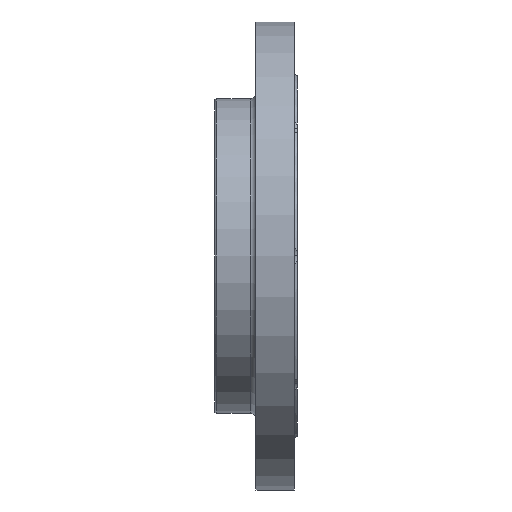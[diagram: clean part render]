
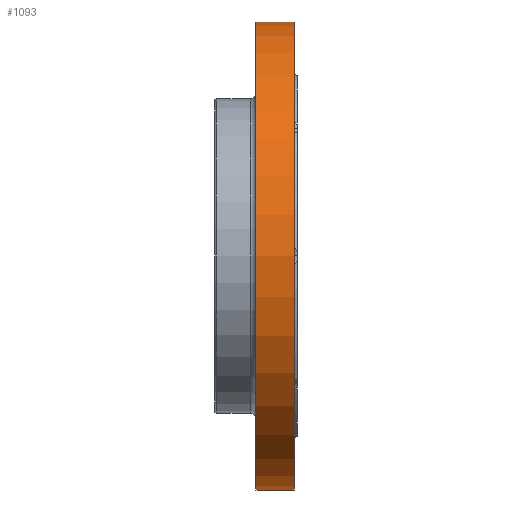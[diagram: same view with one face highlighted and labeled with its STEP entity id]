
A CAD part, left-side view. The second image highlights one B-rep face of the part: STEP entity #1093.
In plain terms, the highlighted cylindrical face has radius 125 mm (diameter 250 mm), a partial arc.
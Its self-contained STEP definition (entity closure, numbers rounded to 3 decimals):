
#56 = DIRECTION ( 'NONE',  ( 0., 0., 1. ) ) ;
#105 = VERTEX_POINT ( 'NONE', #1216 ) ;
#198 = CARTESIAN_POINT ( 'NONE',  ( 0., 1.5, 0. ) ) ;
#238 = ORIENTED_EDGE ( 'NONE', *, *, #1184, .F. ) ;
#242 = VERTEX_POINT ( 'NONE', #1015 ) ;
#247 = VERTEX_POINT ( 'NONE', #1007 ) ;
#281 = CARTESIAN_POINT ( 'NONE',  ( 0., 84.699, -125. ) ) ;
#297 = CARTESIAN_POINT ( 'NONE',  ( 0., 84.699, 0. ) ) ;
#335 = EDGE_CURVE ( 'NONE', #247, #242, #1053, .T. ) ;
#366 = DIRECTION ( 'NONE',  ( 0., 0., 1. ) ) ;
#454 = DIRECTION ( 'NONE',  ( 0., 1., 0. ) ) ;
#496 = AXIS2_PLACEMENT_3D ( 'NONE', #198, #454, #56 ) ;
#505 = EDGE_CURVE ( 'NONE', #1513, #105, #1205, .T. ) ;
#540 = CYLINDRICAL_SURFACE ( 'NONE', #1105, 125. ) ;
#603 = FACE_OUTER_BOUND ( 'NONE', #754, .T. ) ;
#604 = VECTOR ( 'NONE', #656, 1000. ) ;
#656 = DIRECTION ( 'NONE',  ( 0., 1., 0. ) ) ;
#663 = CARTESIAN_POINT ( 'NONE',  ( 0., 84.699, 125. ) ) ;
#754 = EDGE_LOOP ( 'NONE', ( #238, #1252, #1170, #1405 ) ) ;
#784 = DIRECTION ( 'NONE',  ( 0., 1., 0. ) ) ;
#994 = CARTESIAN_POINT ( 'NONE',  ( 0., 22., 0. ) ) ;
#1007 = CARTESIAN_POINT ( 'NONE',  ( 0., 22., -125. ) ) ;
#1015 = CARTESIAN_POINT ( 'NONE',  ( 0., 22., 125. ) ) ;
#1053 = CIRCLE ( 'NONE', #1506, 125. ) ;
#1093 = ADVANCED_FACE ( 'NONE', ( #603 ), #540, .T. ) ;
#1099 = EDGE_CURVE ( 'NONE', #105, #242, #1387, .T. ) ;
#1105 = AXIS2_PLACEMENT_3D ( 'NONE', #297, #1294, #1276 ) ;
#1170 = ORIENTED_EDGE ( 'NONE', *, *, #1099, .T. ) ;
#1184 = EDGE_CURVE ( 'NONE', #1513, #247, #1504, .T. ) ;
#1205 = CIRCLE ( 'NONE', #496, 125. ) ;
#1216 = CARTESIAN_POINT ( 'NONE',  ( 0., 1.5, 125. ) ) ;
#1252 = ORIENTED_EDGE ( 'NONE', *, *, #505, .T. ) ;
#1273 = CARTESIAN_POINT ( 'NONE',  ( 0., 1.5, -125. ) ) ;
#1276 = DIRECTION ( 'NONE',  ( 0., 0., 1. ) ) ;
#1294 = DIRECTION ( 'NONE',  ( 0., 1., 0. ) ) ;
#1387 = LINE ( 'NONE', #663, #604 ) ;
#1405 = ORIENTED_EDGE ( 'NONE', *, *, #335, .F. ) ;
#1456 = VECTOR ( 'NONE', #784, 1000. ) ;
#1479 = DIRECTION ( 'NONE',  ( 0., 1., 0. ) ) ;
#1504 = LINE ( 'NONE', #281, #1456 ) ;
#1506 = AXIS2_PLACEMENT_3D ( 'NONE', #994, #1479, #366 ) ;
#1513 = VERTEX_POINT ( 'NONE', #1273 ) ;
